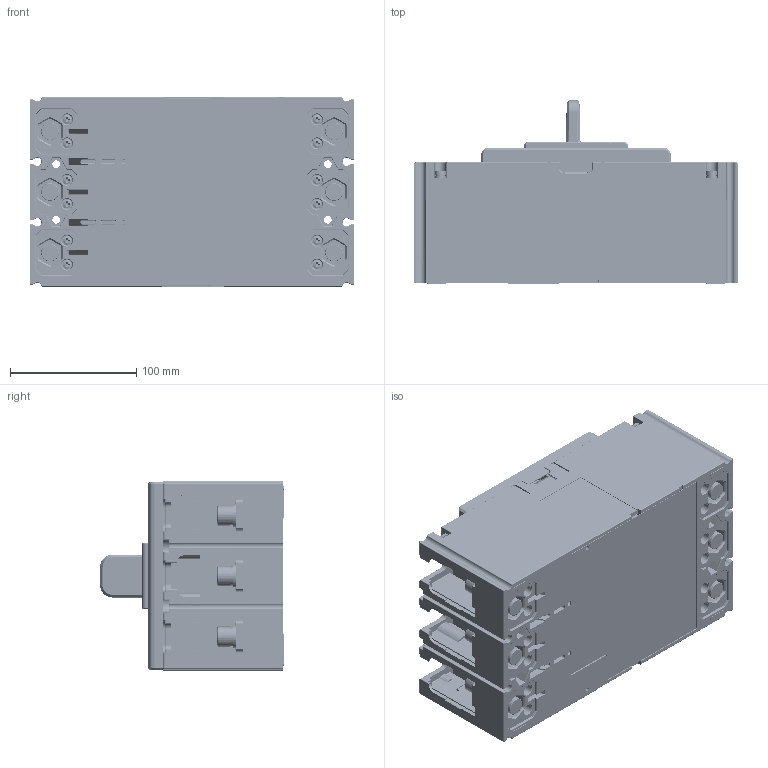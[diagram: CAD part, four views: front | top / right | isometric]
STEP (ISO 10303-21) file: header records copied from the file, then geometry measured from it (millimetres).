
FILE_DESCRIPTION((''),'2;1');
FILE_NAME('2253065600_ASM_ASM','2025-04-28T',('Administrator'),(''),'PRO/ENGINEER BY PARAMETRIC TECHNOLOGY CORPORATION, 2015440','PRO/ENGINEER BY PARAMETRIC TECHNOLOGY CORPORATION, 2015440','');
FILE_SCHEMA(('CONFIG_CONTROL_DESIGN'));
Products named in the file (48): JZ_5024058700_AF0_1; GB_T809-M5X16_1; 5024058700_AF0_ASM_1_ASM; 89400078R0_1; 85510339P01_1; 8550073900_1; 8595009000_1; 7130130208_GB_T109_3X8_AF0_1; 5DLX_551_722_ASM_1_ASM; 8420028500_1; 5551117200_AF0_ASM_1_ASM; 5551149200_ASM_1_ASM; 7010100507J_GB_T823_M4X12_1; 7090300401K_GB_T93_4_1; 7090200011_GB_T97_4_4_S_1; 5850007600_ASM_1_ASM; 7010100505J_GB_T823_M4X10_1; 5850007500_ASM_1_ASM; 7030100512_GB_T9074_4_M5X45_1; 5295020400_ASM_1_ASM; 8742130800_1; 8253057400_1; 8865077500_AF0_1; 8865077600_AF0_1; 5253021200_ASM_1_ASM; 8742103700_1; 7010600505_GB_T70_1_M10X35_1; 7090300701K_GB_T93_10_1; GB_T97_4_10_1; 58500064C0_ASM_1_ASM; GZ_5315075100_1; GB_T809-M3X8_1; 5315075100_ASM_1_ASM; 8282201200_AF0_1; 8253076500_1; 5315076500_ASM_1_ASM; GB_T823-M5X35_1; 7090300501K_GB_T93_5_1; GB_T97_4_5_1; 5850007400_ASM_1_ASM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
Assembly tree (102 placements, depth 6):
  2253065600_ASM_ASM
    2253065600_ASM_1_ASM
      5295020400_ASM_1_ASM
        5024058700_AF0_ASM_1_ASM
          JZ_5024058700_AF0_1
          GB_T809-M5X16_1  x6
        89400078R0_1  x6
        5DLX_551_722_ASM_1_ASM  x3
          85510339P01_1
          8550073900_1
          8595009000_1
          7130130208_GB_T109_3X8_AF0_1
        5551149200_ASM_1_ASM
          5551117200_AF0_ASM_1_ASM  x3
            8420028500_1
        5850007600_ASM_1_ASM  x15
          7010100507J_GB_T823_M4X12_1
          7090300401K_GB_T93_4_1
          7090200011_GB_T97_4_4_S_1
        5850007500_ASM_1_ASM  x3
          7010100505J_GB_T823_M4X10_1
          7090300401K_GB_T93_4_1
          7090200011_GB_T97_4_4_S_1
        7030100512_GB_T9074_4_M5X45_1  x4
      8742130800_1  x3
      5253021200_ASM_1_ASM
        8253057400_1
        8865077500_AF0_1
        8865077600_AF0_1
      8742103700_1  x3
      58500064C0_ASM_1_ASM  x6
        7010600505_GB_T70_1_M10X35_1
        7090300701K_GB_T93_10_1
        GB_T97_4_10_1
      5315076500_ASM_1_ASM
        5315075100_ASM_1_ASM
          GZ_5315075100_1
          GB_T809-M3X8_1  x4
        8282201200_AF0_1
        8253076500_1
      5850007400_ASM_1_ASM  x6
        GB_T823-M5X35_1
        7090300501K_GB_T93_5_1
        GB_T97_4_5_1
      8315095700_1
      5850007700_ASM_1_ASM  x4
        7010100305R01_GB_T823_M3X10_1
        7090300201_GB_T93_3_1
        GB_T97_4_3_1
      8742155300_1
Bounding box: 257 x 145.8 x 150 mm (x, y, z)
Volume: 1467525.5 mm3; surface area: 732373.3 mm2
Topology: 152 solids, 222 shells, 9719 faces, 25243 edges, 15922 vertices
Faces by surface type: plane 5400, cylinder 2839, torus 446, cone 418, sphere 263, extrusion 215, bspline 138
Entity records: 250553 total; most frequent: CARTESIAN_POINT 58551, ORIENTED_EDGE 40354, DIRECTION 39178, EDGE_CURVE 20209, VECTOR 14152, LINE 13937, VERTEX_POINT 12903, AXIS2_PLACEMENT_3D 12513
